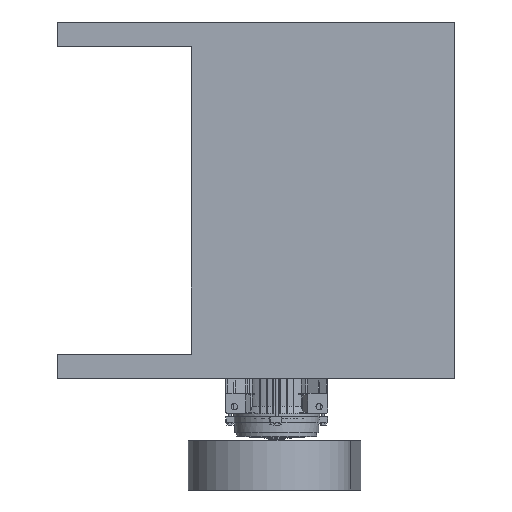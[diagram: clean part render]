
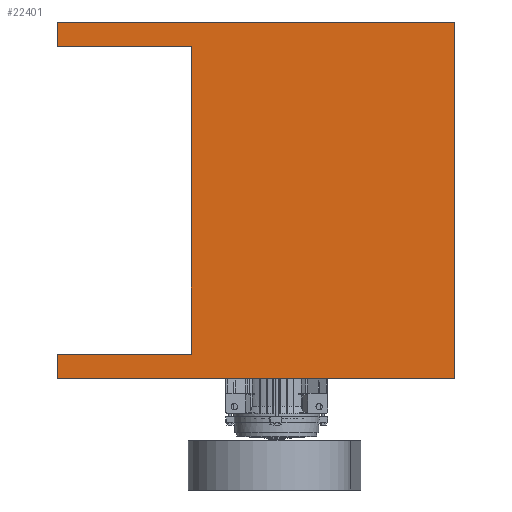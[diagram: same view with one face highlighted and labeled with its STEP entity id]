
A CAD part, front view. The second image highlights one B-rep face of the part: STEP entity #22401.
In plain terms, the highlighted planar face has unit normal (0, -1, 0).
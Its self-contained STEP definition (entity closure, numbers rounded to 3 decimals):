
#18 = VERTEX_POINT ( 'NONE', #38882 ) ;
#144 = EDGE_CURVE ( 'NONE', #2547, #36558, #20437, .T. ) ;
#516 = VERTEX_POINT ( 'NONE', #13766 ) ;
#1042 = VERTEX_POINT ( 'NONE', #16522 ) ;
#2028 = ORIENTED_EDGE ( 'NONE', *, *, #39617, .T. ) ;
#2547 = VERTEX_POINT ( 'NONE', #30587 ) ;
#3331 = LINE ( 'NONE', #22714, #34017 ) ;
#3649 = DIRECTION ( 'NONE',  ( 0., 0., -1. ) ) ;
#4117 = DIRECTION ( 'NONE',  ( 0., 1., 0. ) ) ;
#4251 = ORIENTED_EDGE ( 'NONE', *, *, #7411, .T. ) ;
#4643 = LINE ( 'NONE', #22416, #36175 ) ;
#6941 = CARTESIAN_POINT ( 'NONE',  ( 374.485, -176.895, 336. ) ) ;
#7411 = EDGE_CURVE ( 'NONE', #1042, #516, #3331, .T. ) ;
#8060 = VERTEX_POINT ( 'NONE', #6941 ) ;
#8118 = CARTESIAN_POINT ( 'NONE',  ( -375.515, -176.895, 290. ) ) ;
#9140 = CARTESIAN_POINT ( 'NONE',  ( -122.515, -176.895, 290. ) ) ;
#10003 = ORIENTED_EDGE ( 'NONE', *, *, #35627, .F. ) ;
#10183 = LINE ( 'NONE', #16240, #35246 ) ;
#11794 = VECTOR ( 'NONE', #18252, 1000. ) ;
#12217 = LINE ( 'NONE', #38153, #36224 ) ;
#12310 = VECTOR ( 'NONE', #12378, 1000. ) ;
#12378 = DIRECTION ( 'NONE',  ( -1., 0., 0. ) ) ;
#12728 = VECTOR ( 'NONE', #36529, 1000. ) ;
#13151 = ORIENTED_EDGE ( 'NONE', *, *, #25532, .T. ) ;
#13375 = DIRECTION ( 'NONE',  ( -1., 0., 0. ) ) ;
#13766 = CARTESIAN_POINT ( 'NONE',  ( -375.515, -176.895, -336. ) ) ;
#15452 = ORIENTED_EDGE ( 'NONE', *, *, #27578, .F. ) ;
#16240 = CARTESIAN_POINT ( 'NONE',  ( 374.485, -176.895, 293. ) ) ;
#16522 = CARTESIAN_POINT ( 'NONE',  ( -375.515, -176.895, -290. ) ) ;
#16685 = ORIENTED_EDGE ( 'NONE', *, *, #40161, .T. ) ;
#16753 = ORIENTED_EDGE ( 'NONE', *, *, #144, .T. ) ;
#17672 = FACE_OUTER_BOUND ( 'NONE', #36645, .T. ) ;
#18252 = DIRECTION ( 'NONE',  ( 0., 0., -1. ) ) ;
#19469 = DIRECTION ( 'NONE',  ( 0., 0., -1. ) ) ;
#19991 = CARTESIAN_POINT ( 'NONE',  ( -375.515, -176.895, 293. ) ) ;
#20437 = LINE ( 'NONE', #19991, #11794 ) ;
#21331 = LINE ( 'NONE', #8118, #12728 ) ;
#22401 = ADVANCED_FACE ( 'NONE', ( #17672 ), #23493, .F. ) ;
#22416 = CARTESIAN_POINT ( 'NONE',  ( -122.515, -176.895, -290. ) ) ;
#22714 = CARTESIAN_POINT ( 'NONE',  ( -375.515, -176.895, 293. ) ) ;
#23336 = CARTESIAN_POINT ( 'NONE',  ( 0., -176.895, 293. ) ) ;
#23493 = PLANE ( 'NONE',  #40592 ) ;
#24458 = ORIENTED_EDGE ( 'NONE', *, *, #37609, .T. ) ;
#25359 = VERTEX_POINT ( 'NONE', #32028 ) ;
#25532 = EDGE_CURVE ( 'NONE', #8060, #2547, #38080, .T. ) ;
#26641 = DIRECTION ( 'NONE',  ( 0., 0., 1. ) ) ;
#27578 = EDGE_CURVE ( 'NONE', #8060, #18, #10183, .T. ) ;
#29721 = CARTESIAN_POINT ( 'NONE',  ( -375.515, -176.895, 290. ) ) ;
#30121 = VECTOR ( 'NONE', #35912, 1000. ) ;
#30587 = CARTESIAN_POINT ( 'NONE',  ( -375.515, -176.895, 336. ) ) ;
#31335 = CARTESIAN_POINT ( 'NONE',  ( -375.515, -176.895, -336. ) ) ;
#32028 = CARTESIAN_POINT ( 'NONE',  ( -122.515, -176.895, -290. ) ) ;
#32937 = CARTESIAN_POINT ( 'NONE',  ( -375.515, -176.895, 336. ) ) ;
#34017 = VECTOR ( 'NONE', #3649, 1000. ) ;
#35246 = VECTOR ( 'NONE', #19469, 1000. ) ;
#35627 = EDGE_CURVE ( 'NONE', #18, #516, #36304, .T. ) ;
#35702 = VERTEX_POINT ( 'NONE', #9140 ) ;
#35912 = DIRECTION ( 'NONE',  ( -1., 0., 0. ) ) ;
#36175 = VECTOR ( 'NONE', #37733, 1000. ) ;
#36224 = VECTOR ( 'NONE', #13375, 1000. ) ;
#36304 = LINE ( 'NONE', #31335, #12310 ) ;
#36529 = DIRECTION ( 'NONE',  ( 1., 0., 0. ) ) ;
#36558 = VERTEX_POINT ( 'NONE', #29721 ) ;
#36645 = EDGE_LOOP ( 'NONE', ( #2028, #16685, #24458, #4251, #10003, #15452, #13151, #16753 ) ) ;
#37609 = EDGE_CURVE ( 'NONE', #25359, #1042, #12217, .T. ) ;
#37733 = DIRECTION ( 'NONE',  ( 0., 0., -1. ) ) ;
#38080 = LINE ( 'NONE', #32937, #30121 ) ;
#38153 = CARTESIAN_POINT ( 'NONE',  ( -375.515, -176.895, -290. ) ) ;
#38882 = CARTESIAN_POINT ( 'NONE',  ( 374.485, -176.895, -336. ) ) ;
#39617 = EDGE_CURVE ( 'NONE', #36558, #35702, #21331, .T. ) ;
#40161 = EDGE_CURVE ( 'NONE', #35702, #25359, #4643, .T. ) ;
#40592 = AXIS2_PLACEMENT_3D ( 'NONE', #23336, #4117, #26641 ) ;
